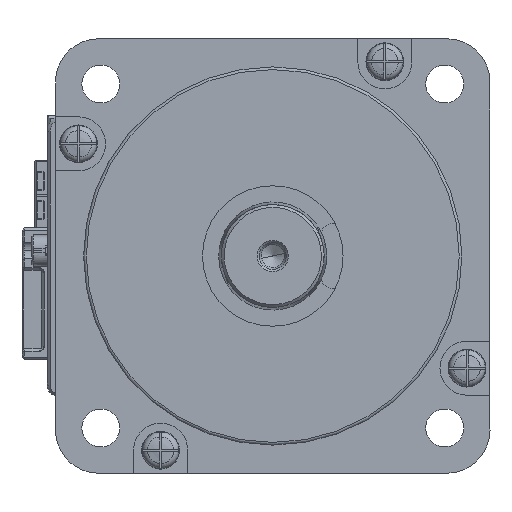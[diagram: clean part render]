
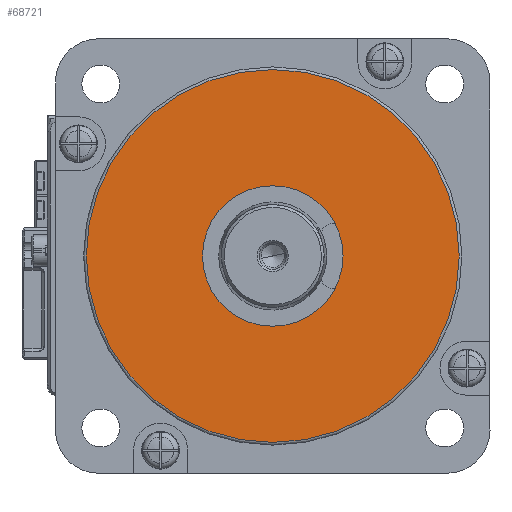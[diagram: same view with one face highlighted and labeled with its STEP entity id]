
A CAD part, left-side view. The second image highlights one B-rep face of the part: STEP entity #68721.
In plain terms, the highlighted planar face has unit normal (-1, 0, 0) as drawn and (0, 0, -1) by its records, which use the part's own axes.
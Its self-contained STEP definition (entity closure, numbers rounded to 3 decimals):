
#1292 = ORIENTED_EDGE ( 'NONE', *, *, #1891, .T. ) ;
#1891 = EDGE_CURVE ( 'NONE', #18470, #18470, #63453, .T. ) ;
#6043 = ORIENTED_EDGE ( 'NONE', *, *, #68480, .T. ) ;
#9248 = CARTESIAN_POINT ( 'NONE',  ( 0., 0., 0. ) ) ;
#10344 = CARTESIAN_POINT ( 'NONE',  ( 0., 0., 0. ) ) ;
#12225 = CIRCLE ( 'NONE', #17978, 34.499 ) ;
#17978 = AXIS2_PLACEMENT_3D ( 'NONE', #10344, #32275, #54204 ) ;
#18470 = VERTEX_POINT ( 'NONE', #57995 ) ;
#19642 = FACE_OUTER_BOUND ( 'NONE', #26300, .T. ) ;
#26080 = PLANE ( 'NONE',  #38719 ) ;
#26300 = EDGE_LOOP ( 'NONE', ( #6043 ) ) ;
#28868 = CARTESIAN_POINT ( 'NONE',  ( 34.499, 0., 0. ) ) ;
#32229 = DIRECTION ( 'NONE',  ( 1., 0., 0. ) ) ;
#32275 = DIRECTION ( 'NONE',  ( 0., 0., -1. ) ) ;
#35334 = VERTEX_POINT ( 'NONE', #28868 ) ;
#35772 = EDGE_LOOP ( 'NONE', ( #1292 ) ) ;
#38719 = AXIS2_PLACEMENT_3D ( 'NONE', #54113, #42994, #49426 ) ;
#42994 = DIRECTION ( 'NONE',  ( 0., 0., 1. ) ) ;
#48048 = DIRECTION ( 'NONE',  ( 0., 0., 1. ) ) ;
#48521 = AXIS2_PLACEMENT_3D ( 'NONE', #9248, #48048, #32229 ) ;
#49426 = DIRECTION ( 'NONE',  ( 1., 0., 0. ) ) ;
#54113 = CARTESIAN_POINT ( 'NONE',  ( 0., 0., 0. ) ) ;
#54204 = DIRECTION ( 'NONE',  ( 1., 0., 0. ) ) ;
#57995 = CARTESIAN_POINT ( 'NONE',  ( 13., 0., 0. ) ) ;
#63453 = CIRCLE ( 'NONE', #48521, 13. ) ;
#68480 = EDGE_CURVE ( 'NONE', #35334, #35334, #12225, .T. ) ;
#68721 = ADVANCED_FACE ( 'NONE', ( #19642, #69247 ), #26080, .F. ) ;
#69247 = FACE_BOUND ( 'NONE', #35772, .T. ) ;
